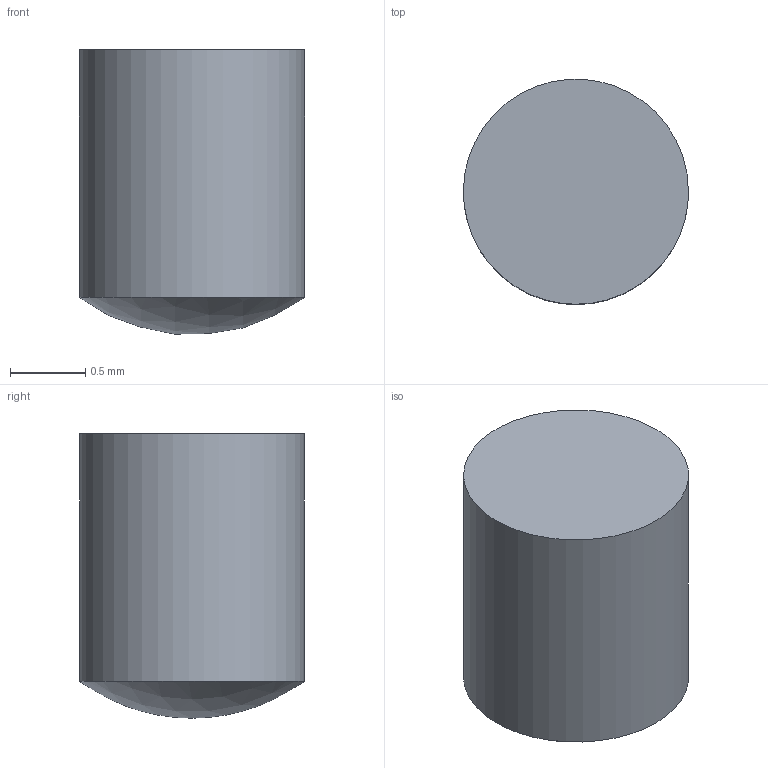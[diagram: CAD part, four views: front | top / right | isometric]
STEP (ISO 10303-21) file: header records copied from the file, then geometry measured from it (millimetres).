
FILE_DESCRIPTION ((), '1');
FILE_NAME ('Can''t convert Unicode to ASCII', '2016-12-19T18:08:23', ('Unknown'), ('Unknown'), 'HarmonyWare STEP v1.9.13', 'HarmonyWare Translators', '');
FILE_SCHEMA (('CONFIG_CONTROL_DESIGN'));
Length unit declared in the file: millimetre
Products named in the file (1): NONE
Bounding box: 1.5 x 1.5 x 1.89 mm (x, y, z)
Volume: 3.1 mm3; surface area: 11.5 mm2
Topology: 1 solids, 1 shells, 3 faces, 3 edges, 2 vertices
Faces by surface type: sphere 1, plane 1, cylinder 1
Full cylindrical faces by diameter (mm): 1.5 x1
Entity records: 151 total; most frequent: CARTESIAN_POINT 25, PERSON 8, ORGANIZATION 8, PERSON_AND_ORGANIZATION 8, ORIENTED_EDGE 6, DIRECTION 6, PERSON_AND_ORGANIZATION_ROLE 5, CC_DESIGN_PERSON_AND_ORGANIZATION_ASSIGNMENT 5
